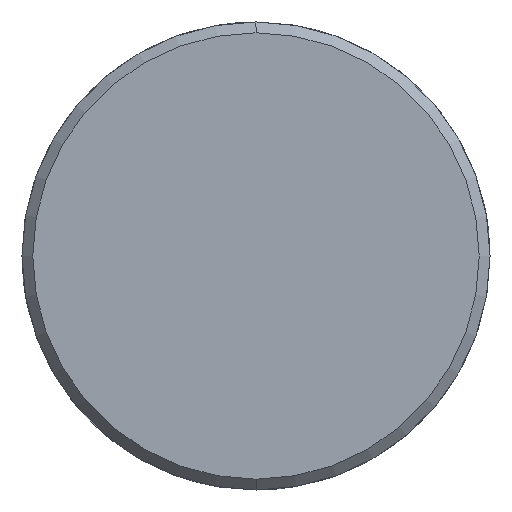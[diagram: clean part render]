
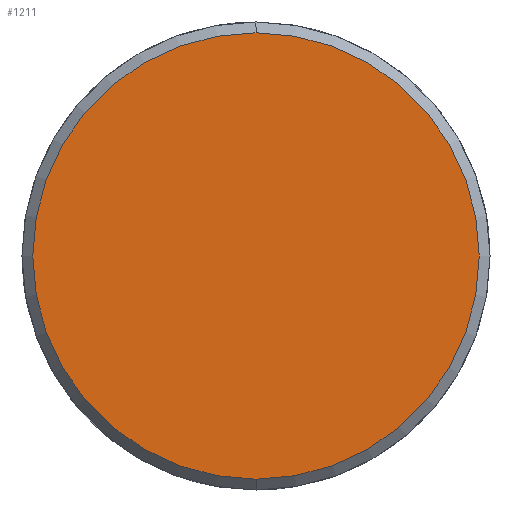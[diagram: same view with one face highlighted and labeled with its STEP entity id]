
A CAD part, left-side view. The second image highlights one B-rep face of the part: STEP entity #1211.
In plain terms, the highlighted planar face has unit normal (-1, 0, 0).
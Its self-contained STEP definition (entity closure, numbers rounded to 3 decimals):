
#1143=CARTESIAN_POINT('Vertex',(-10.,0.,-31.)) ;
#1146=CARTESIAN_POINT('Axis2P3D Location',(-10.,0.,0.)) ;
#1150=CARTESIAN_POINT('Vertex',(-10.,31.,0.)) ;
#1153=CARTESIAN_POINT('Axis2P3D Location',(-10.,0.,0.)) ;
#1157=CARTESIAN_POINT('Vertex',(-10.,0.,31.)) ;
#1179=CARTESIAN_POINT('Axis2P3D Location',(-10.,0.,0.)) ;
#1183=CARTESIAN_POINT('Vertex',(-10.,-31.,0.)) ;
#1186=CARTESIAN_POINT('Axis2P3D Location',(-10.,0.,0.)) ;
#1200=CARTESIAN_POINT('Axis2P3D Location',(-10.,0.,0.)) ;
#1147=DIRECTION('Axis2P3D Direction',(1.,0.,-0.)) ;
#1154=DIRECTION('Axis2P3D Direction',(1.,0.,-0.)) ;
#1180=DIRECTION('Axis2P3D Direction',(1.,0.,-0.)) ;
#1187=DIRECTION('Axis2P3D Direction',(1.,0.,-0.)) ;
#1201=DIRECTION('Axis2P3D Direction',(1.,0.,-0.)) ;
#1202=DIRECTION('Axis2P3D XDirection',(-0.,0.,-1.)) ;
#1148=AXIS2_PLACEMENT_3D('Circle Axis2P3D',#1146,#1147,$) ;
#1155=AXIS2_PLACEMENT_3D('Circle Axis2P3D',#1153,#1154,$) ;
#1181=AXIS2_PLACEMENT_3D('Circle Axis2P3D',#1179,#1180,$) ;
#1188=AXIS2_PLACEMENT_3D('Circle Axis2P3D',#1186,#1187,$) ;
#1203=AXIS2_PLACEMENT_3D('Plane Axis2P3D',#1200,#1201,#1202) ;
#1206=ORIENTED_EDGE('',*,*,#1152,.F.) ;
#1207=ORIENTED_EDGE('',*,*,#1190,.F.) ;
#1208=ORIENTED_EDGE('',*,*,#1185,.F.) ;
#1209=ORIENTED_EDGE('',*,*,#1159,.F.) ;
#1211=ADVANCED_FACE('351-50X146X240',(#1210),#1204,.F.) ;
#1149=CIRCLE('generated circle',#1148,31.) ;
#1156=CIRCLE('generated circle',#1155,31.) ;
#1182=CIRCLE('generated circle',#1181,31.) ;
#1189=CIRCLE('generated circle',#1188,31.) ;
#1152=EDGE_CURVE('',#1144,#1151,#1149,.T.) ;
#1159=EDGE_CURVE('',#1151,#1158,#1156,.T.) ;
#1185=EDGE_CURVE('',#1158,#1184,#1182,.T.) ;
#1190=EDGE_CURVE('',#1184,#1144,#1189,.T.) ;
#1205=EDGE_LOOP('',(#1206,#1207,#1208,#1209)) ;
#1210=FACE_OUTER_BOUND('',#1205,.T.) ;
#1204=PLANE('Plane',#1203) ;
#1144=VERTEX_POINT('',#1143) ;
#1151=VERTEX_POINT('',#1150) ;
#1158=VERTEX_POINT('',#1157) ;
#1184=VERTEX_POINT('',#1183) ;
